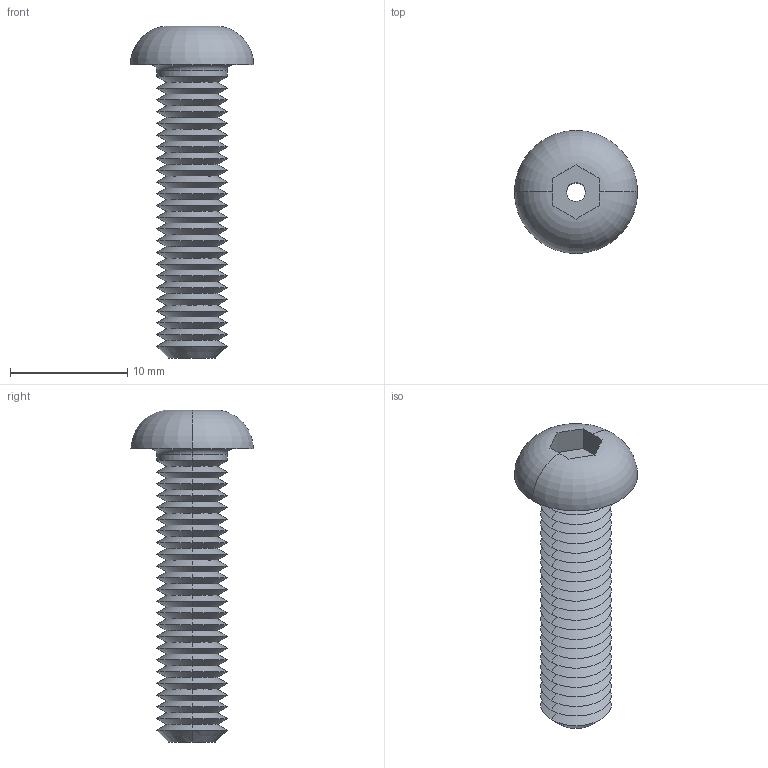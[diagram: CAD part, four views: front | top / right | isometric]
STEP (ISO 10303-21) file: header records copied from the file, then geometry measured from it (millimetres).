
FILE_DESCRIPTION (( 'STEP AP203' ), '1' );
FILE_NAME ('P0094.060-025-A2.step', '2019-07-12T16:55:52', ( '' ), ( '' ), 'SwSTEP 2.0', 'SolidWorks 2017', '' );
FILE_SCHEMA (( 'CONFIG_CONTROL_DESIGN' ));
Length unit declared in the file: millimetre
Products named in the file (1): P0094.060-025-A2
Bounding box: 10.5 x 10.5 x 28.3 mm (x, y, z)
Volume: 667.8 mm3; surface area: 1150.3 mm2
Topology: 1 solids, 1 shells, 111 faces, 228 edges, 120 vertices
Faces by surface type: cone 94, plane 9, cylinder 4, torus 4
Entity records: 2945 total; most frequent: DIRECTION 554, CARTESIAN_POINT 496, ORIENTED_EDGE 456, EDGE_CURVE 228, AXIS2_PLACEMENT_3D 222, VERTEX_POINT 120, EDGE_LOOP 114, FACE_OUTER_BOUND 111
